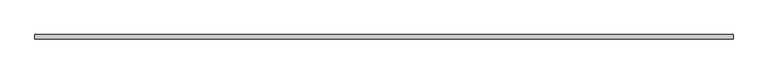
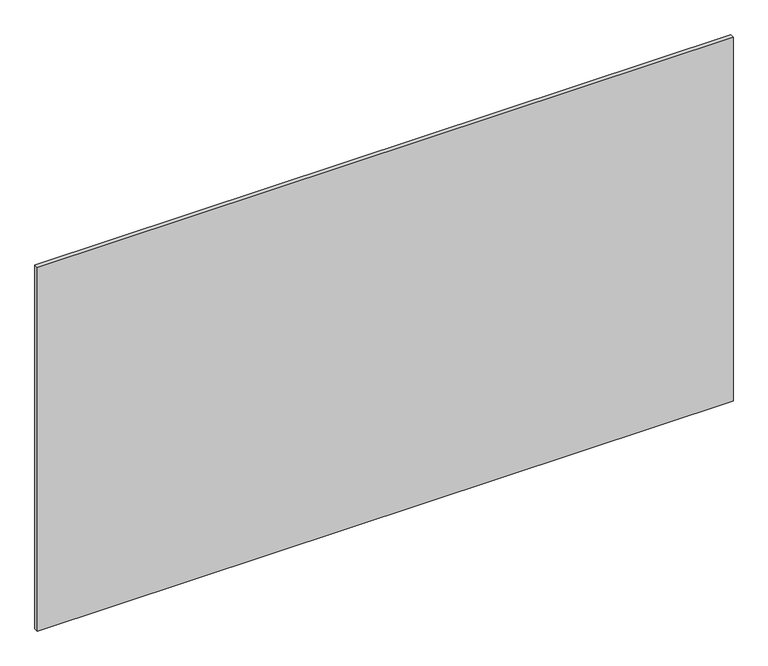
"""IFC4 building model written with IfcOpenShell, lengths in millimetres: proxy geometry, CAMBRIDGE^TABLE 2_4884 Rect-TOP BLOCKING."""

from ifc_helpers import new_model, si_unit, frame, origin, place, context, project, spatial, polyline, outline, extrude, source, transform, mapped, element, save


def generic_models_759ffe74(model_context):
    return source(origin(), model_context, "Body", "SweptSolid", [
        extrude(outline(polyline([(44.45, -12.7), (44.45, 0.0), (2089.15, 0.0), (2089.15, -12.7), (44.45, -12.7)])), frame((0.0, 0.0, -1174.75), z_axis=(0.0, 0.0, 1.0), x_axis=(1.0, 0.0, 0.0)), (0.0, 0.0, 1.0), 1130.3),
    ])


if __name__ == "__main__":
    model = new_model("IFC4")
    model_context = context("Model", 3, world=origin())
    ifc_project = project(units=[si_unit("LENGTHUNIT", "METRE", prefix="MILLI")], contexts=[model_context])
    site = spatial("IfcSite", under=ifc_project)
    building = spatial("IfcBuilding", under=site)
    placement = place(None, origin())
    generic_models_shape = generic_models_759ffe74(model_context)
    element("IfcBuildingElementProxy", 1, Name="CAMBRIDGE^TABLE 2_4884 Rect-TOP BLOCKING", ObjectType="CAMBRIDGE^TABLE 2_4884 Rect-TOP BLOCKING", at=placement, inside=building, context=model_context, shape_type="MappedRepresentation", body=[
        mapped(generic_models_shape, transform((0.0, 0.0, 0.0), x_axis=(1.0, 0.0, 0.0), y_axis=(0.0, 1.0, 0.0), z_axis=(0.0, 0.0, 1.0))),
    ])
    save(model, "model.ifc")
